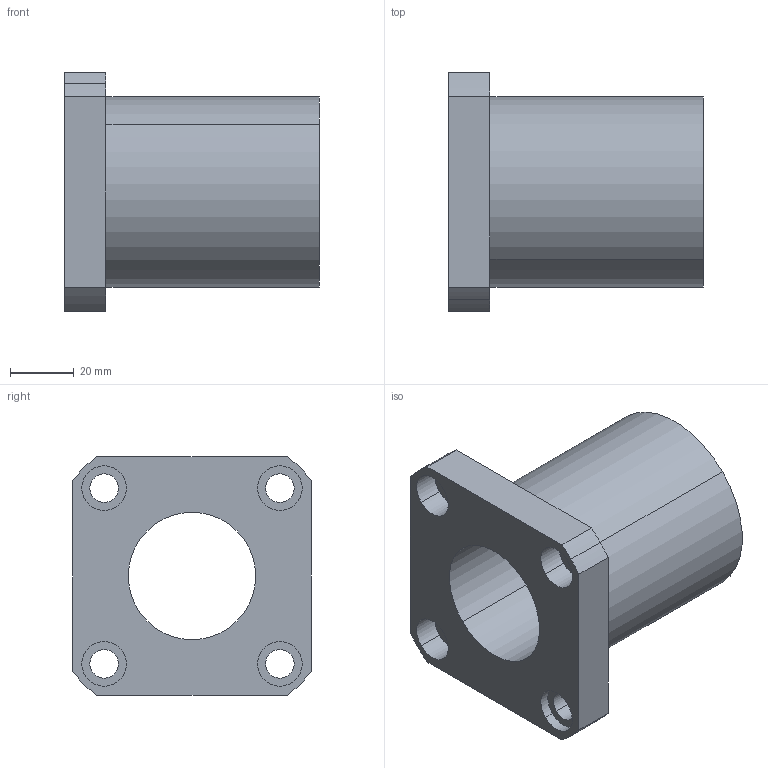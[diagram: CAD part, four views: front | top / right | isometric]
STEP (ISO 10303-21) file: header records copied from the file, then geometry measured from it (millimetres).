
FILE_DESCRIPTION (( 'STEP AP214' ), '1' );
FILE_NAME ('2.7054 Lineaarilaakeri LMK40UU.STEP', '2024-06-24T12:25:45', ( '' ), ( '' ), 'SwSTEP 2.0', 'SolidWorks 2024', '' );
FILE_SCHEMA (( 'AUTOMOTIVE_DESIGN' ));
Length unit declared in the file: millimetre
Products named in the file (1): 2.7054 Lineaarilaakeri LMK40UU
Bounding box: 80 x 75 x 75 mm (x, y, z)
Volume: 154881.8 mm3; surface area: 36271.9 mm2
Topology: 1 solids, 1 shells, 37 faces, 90 edges, 60 vertices
Faces by surface type: cylinder 26, plane 11
Entity records: 1159 total; most frequent: DIRECTION 218, CARTESIAN_POINT 188, ORIENTED_EDGE 180, AXIS2_PLACEMENT_3D 90, EDGE_CURVE 90, VERTEX_POINT 60, CIRCLE 52, EDGE_LOOP 52
